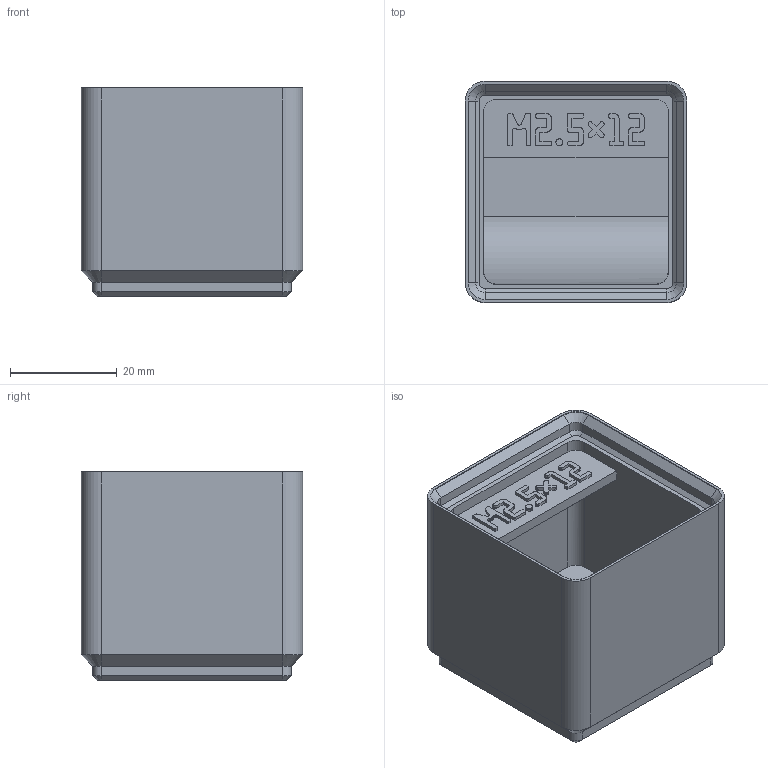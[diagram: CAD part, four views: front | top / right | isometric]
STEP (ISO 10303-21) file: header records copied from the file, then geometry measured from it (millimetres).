
FILE_DESCRIPTION(('Open CASCADE Model'),'2;1');
FILE_NAME('m2p5-screw-12','2026-11-17T16:08:01',('Author'),( 'Open CASCADE'),'Open CASCADE STEP processor 8.0','build123d', 'Unknown');
FILE_SCHEMA(('AUTOMOTIVE_DESIGN { 1 0 10303 214 1 1 1 1 }'));
Products named in the file (1): m2p5-screw-12
Bounding box: 41.5 x 41.5 x 39 mm (x, y, z)
Volume: 30868.1 mm3; surface area: 13694.7 mm2
Topology: 1 solids, 1 shells, 761 faces, 2202 edges, 1452 vertices
Faces by surface type: plane 722, cylinder 22, cone 16, extrusion 1
Entity records: 51998 total; most frequent: CARTESIAN_POINT 10655, DIRECTION 6705, VECTOR 5061, LINE 5060, ORIENTED_EDGE 4404, PCURVE 4404, DEFINITIONAL_REPRESENTATION 4404, EDGE_CURVE 2202
